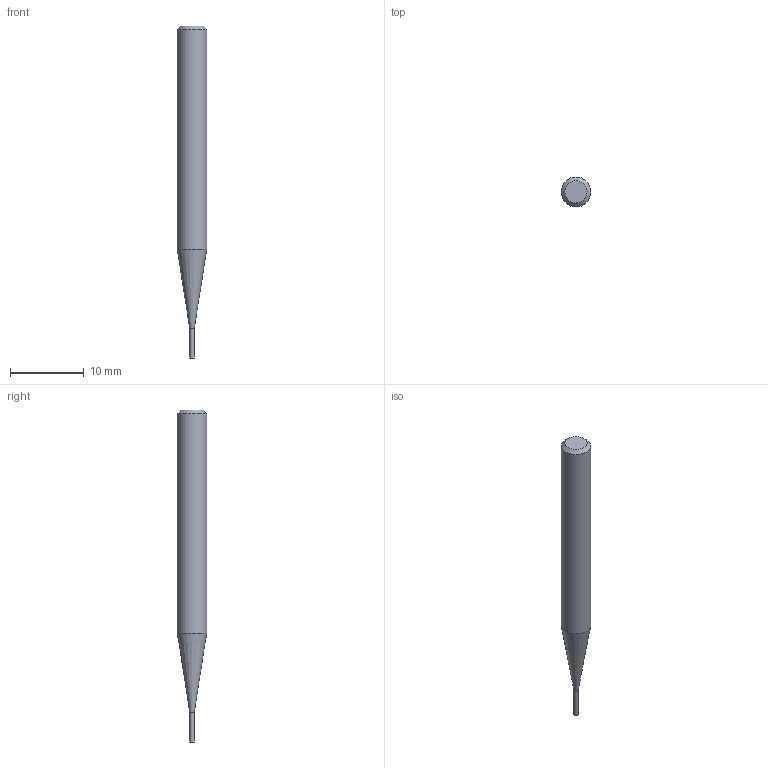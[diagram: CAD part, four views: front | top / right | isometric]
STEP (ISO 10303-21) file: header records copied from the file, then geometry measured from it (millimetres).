
FILE_DESCRIPTION((''),'2;1');
FILE_NAME('C:\Users\nsx150\Desktop\RSE230_20210427\01-00644-00602 RSE230 D0_6X4.step','2021-05-07T14:52:55',(''),(''),'STEP Write','Mastercam 2021 ... CNC Software, Inc.','');
FILE_SCHEMA(('AUTOMOTIVE_DESIGN'));
Length unit declared in the file: millimetre
Products named in the file (1): None
Bounding box: 4 x 4 x 45 mm (x, y, z)
Volume: 432.7 mm3; surface area: 475.8 mm2
Topology: 2 solids, 2 shells, 8 faces, 10 edges, 6 vertices
Faces by surface type: plane 4, cylinder 2, cone 2
Full cylindrical faces by diameter (mm): 0.6 x1, 4 x1
Entity records: 190 total; most frequent: DIRECTION 32, CARTESIAN_POINT 22, AXIS2_PLACEMENT_3D 16, ORIENTED_EDGE 12, EDGE_LOOP 12, STYLED_ITEM 11, ADVANCED_FACE 8, VERTEX_POINT 6
